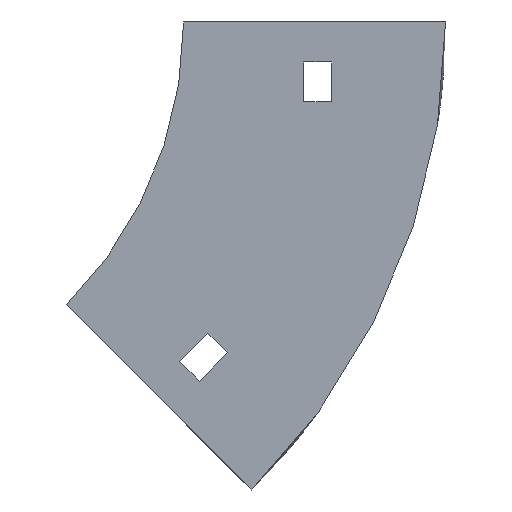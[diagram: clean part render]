
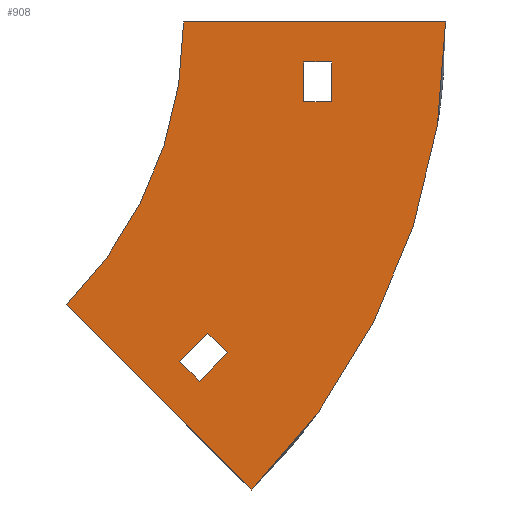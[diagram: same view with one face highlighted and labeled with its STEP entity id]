
A CAD part, left-side view. The second image highlights one B-rep face of the part: STEP entity #908.
In plain terms, the highlighted planar face has unit normal (-1, 0, 0).
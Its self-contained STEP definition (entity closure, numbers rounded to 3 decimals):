
#4 = EDGE_CURVE ( 'NONE', #261, #509, #515, .T. ) ;
#7 = ORIENTED_EDGE ( 'NONE', *, *, #1023, .T. ) ;
#8 = CARTESIAN_POINT ( 'NONE',  ( -302., -11.016, -82.731 ) ) ;
#21 = CARTESIAN_POINT ( 'NONE',  ( -302., 1.005, -84.853 ) ) ;
#26 = FACE_OUTER_BOUND ( 'NONE', #676, .T. ) ;
#30 = DIRECTION ( 'NONE',  ( 0., -1., 0. ) ) ;
#38 = LINE ( 'NONE', #59, #1103 ) ;
#39 = ORIENTED_EDGE ( 'NONE', *, *, #292, .T. ) ;
#59 = CARTESIAN_POINT ( 'NONE',  ( -302., -65.5, 0. ) ) ;
#80 = ORIENTED_EDGE ( 'NONE', *, *, #310, .T. ) ;
#109 = VECTOR ( 'NONE', #720, 1000. ) ;
#126 = CARTESIAN_POINT ( 'NONE',  ( -302., -37., -20. ) ) ;
#197 = CARTESIAN_POINT ( 'NONE',  ( -302., 29.289, -70.711 ) ) ;
#224 = CARTESIAN_POINT ( 'NONE',  ( -302., -30., -20. ) ) ;
#246 = EDGE_LOOP ( 'NONE', ( #517, #7, #80, #39 ) ) ;
#250 = AXIS2_PLACEMENT_3D ( 'NONE', #278, #549, #628 ) ;
#261 = VERTEX_POINT ( 'NONE', #475 ) ;
#263 = VERTEX_POINT ( 'NONE', #837 ) ;
#276 = VERTEX_POINT ( 'NONE', #126 ) ;
#277 = CARTESIAN_POINT ( 'NONE',  ( -302., 100., 0. ) ) ;
#278 = CARTESIAN_POINT ( 'NONE',  ( -302., 100., 0. ) ) ;
#280 = EDGE_CURVE ( 'NONE', #263, #881, #38, .T. ) ;
#283 = CARTESIAN_POINT ( 'NONE',  ( -302., -65.5, 0. ) ) ;
#289 = LINE ( 'NONE', #463, #1080 ) ;
#292 = EDGE_CURVE ( 'NONE', #276, #651, #578, .T. ) ;
#295 = LINE ( 'NONE', #903, #767 ) ;
#310 = EDGE_CURVE ( 'NONE', #329, #276, #743, .T. ) ;
#315 = ORIENTED_EDGE ( 'NONE', *, *, #615, .F. ) ;
#329 = VERTEX_POINT ( 'NONE', #407 ) ;
#355 = FACE_BOUND ( 'NONE', #888, .T. ) ;
#372 = CARTESIAN_POINT ( 'NONE',  ( -302., -3.945, -89.803 ) ) ;
#380 = DIRECTION ( 'NONE',  ( 1., 0., 0. ) ) ;
#390 = DIRECTION ( 'NONE',  ( 0., -1., 0. ) ) ;
#407 = CARTESIAN_POINT ( 'NONE',  ( -302., -37., -10. ) ) ;
#424 = CARTESIAN_POINT ( 'NONE',  ( -302., 1.005, -84.853 ) ) ;
#432 = VECTOR ( 'NONE', #568, 1000. ) ;
#438 = EDGE_CURVE ( 'NONE', #1063, #1133, #608, .T. ) ;
#448 = DIRECTION ( 'NONE',  ( 1., 0., 0. ) ) ;
#461 = DIRECTION ( 'NONE',  ( 0., 0., -1. ) ) ;
#463 = CARTESIAN_POINT ( 'NONE',  ( -302., -30., -10. ) ) ;
#474 = DIRECTION ( 'NONE',  ( 0., 0.707, 0.707 ) ) ;
#475 = CARTESIAN_POINT ( 'NONE',  ( -302., -3.945, -89.803 ) ) ;
#482 = CIRCLE ( 'NONE', #802, 165.5 ) ;
#484 = ORIENTED_EDGE ( 'NONE', *, *, #438, .F. ) ;
#494 = EDGE_CURVE ( 'NONE', #1071, #850, #295, .T. ) ;
#509 = VERTEX_POINT ( 'NONE', #8 ) ;
#515 = LINE ( 'NONE', #372, #109 ) ;
#517 = ORIENTED_EDGE ( 'NONE', *, *, #564, .T. ) ;
#521 = VERTEX_POINT ( 'NONE', #623 ) ;
#534 = DIRECTION ( 'NONE',  ( 0., 0., -1. ) ) ;
#539 = EDGE_CURVE ( 'NONE', #850, #263, #745, .T. ) ;
#549 = DIRECTION ( 'NONE',  ( -1., 0., 0. ) ) ;
#564 = EDGE_CURVE ( 'NONE', #651, #521, #289, .T. ) ;
#568 = DIRECTION ( 'NONE',  ( 0., 1., 0. ) ) ;
#575 = CARTESIAN_POINT ( 'NONE',  ( -302., -6.066, -77.782 ) ) ;
#578 = LINE ( 'NONE', #224, #432 ) ;
#604 = ORIENTED_EDGE ( 'NONE', *, *, #4, .F. ) ;
#608 = LINE ( 'NONE', #424, #1011 ) ;
#615 = EDGE_CURVE ( 'NONE', #509, #1063, #836, .T. ) ;
#623 = CARTESIAN_POINT ( 'NONE',  ( -302., -30., -10. ) ) ;
#628 = DIRECTION ( 'NONE',  ( 0., 0., -1. ) ) ;
#630 = VECTOR ( 'NONE', #637, 1000. ) ;
#637 = DIRECTION ( 'NONE',  ( 0., -0.707, -0.707 ) ) ;
#651 = VERTEX_POINT ( 'NONE', #1019 ) ;
#675 = DIRECTION ( 'NONE',  ( 0., 0.707, -0.707 ) ) ;
#676 = EDGE_LOOP ( 'NONE', ( #1148, #695, #803, #761 ) ) ;
#695 = ORIENTED_EDGE ( 'NONE', *, *, #494, .F. ) ;
#720 = DIRECTION ( 'NONE',  ( 0., -0.707, 0.707 ) ) ;
#721 = AXIS2_PLACEMENT_3D ( 'NONE', #885, #380, #534 ) ;
#728 = DIRECTION ( 'NONE',  ( 0., 0., 1. ) ) ;
#743 = LINE ( 'NONE', #1020, #861 ) ;
#745 = CIRCLE ( 'NONE', #250, 100. ) ;
#761 = ORIENTED_EDGE ( 'NONE', *, *, #280, .F. ) ;
#767 = VECTOR ( 'NONE', #984, 1000. ) ;
#799 = PLANE ( 'NONE',  #721 ) ;
#802 = AXIS2_PLACEMENT_3D ( 'NONE', #277, #448, #461 ) ;
#803 = ORIENTED_EDGE ( 'NONE', *, *, #823, .F. ) ;
#823 = EDGE_CURVE ( 'NONE', #881, #1071, #482, .T. ) ;
#825 = ORIENTED_EDGE ( 'NONE', *, *, #841, .F. ) ;
#836 = LINE ( 'NONE', #1014, #1095 ) ;
#837 = CARTESIAN_POINT ( 'NONE',  ( -302., 0., 0. ) ) ;
#841 = EDGE_CURVE ( 'NONE', #1133, #261, #1088, .T. ) ;
#850 = VERTEX_POINT ( 'NONE', #197 ) ;
#861 = VECTOR ( 'NONE', #1102, 1000. ) ;
#879 = CARTESIAN_POINT ( 'NONE',  ( -302., 1.005, -84.853 ) ) ;
#881 = VERTEX_POINT ( 'NONE', #283 ) ;
#885 = CARTESIAN_POINT ( 'NONE',  ( -302., 100., 0. ) ) ;
#888 = EDGE_LOOP ( 'NONE', ( #825, #484, #315, #604 ) ) ;
#903 = CARTESIAN_POINT ( 'NONE',  ( -302., 29.289, -70.711 ) ) ;
#908 = ADVANCED_FACE ( 'NONE', ( #26, #1073, #355 ), #799, .F. ) ;
#913 = VECTOR ( 'NONE', #30, 1000. ) ;
#919 = CARTESIAN_POINT ( 'NONE',  ( -302., -30., -10. ) ) ;
#984 = DIRECTION ( 'NONE',  ( 0., 0.707, 0.707 ) ) ;
#1011 = VECTOR ( 'NONE', #675, 1000. ) ;
#1014 = CARTESIAN_POINT ( 'NONE',  ( -302., -6.066, -77.782 ) ) ;
#1019 = CARTESIAN_POINT ( 'NONE',  ( -302., -30., -20. ) ) ;
#1020 = CARTESIAN_POINT ( 'NONE',  ( -302., -37., -10. ) ) ;
#1023 = EDGE_CURVE ( 'NONE', #521, #329, #1110, .T. ) ;
#1063 = VERTEX_POINT ( 'NONE', #575 ) ;
#1071 = VERTEX_POINT ( 'NONE', #1124 ) ;
#1073 = FACE_BOUND ( 'NONE', #246, .T. ) ;
#1080 = VECTOR ( 'NONE', #728, 1000. ) ;
#1088 = LINE ( 'NONE', #21, #630 ) ;
#1095 = VECTOR ( 'NONE', #474, 1000. ) ;
#1102 = DIRECTION ( 'NONE',  ( 0., 0., -1. ) ) ;
#1103 = VECTOR ( 'NONE', #390, 1000. ) ;
#1110 = LINE ( 'NONE', #919, #913 ) ;
#1124 = CARTESIAN_POINT ( 'NONE',  ( -302., -17.026, -117.026 ) ) ;
#1133 = VERTEX_POINT ( 'NONE', #879 ) ;
#1148 = ORIENTED_EDGE ( 'NONE', *, *, #539, .F. ) ;
